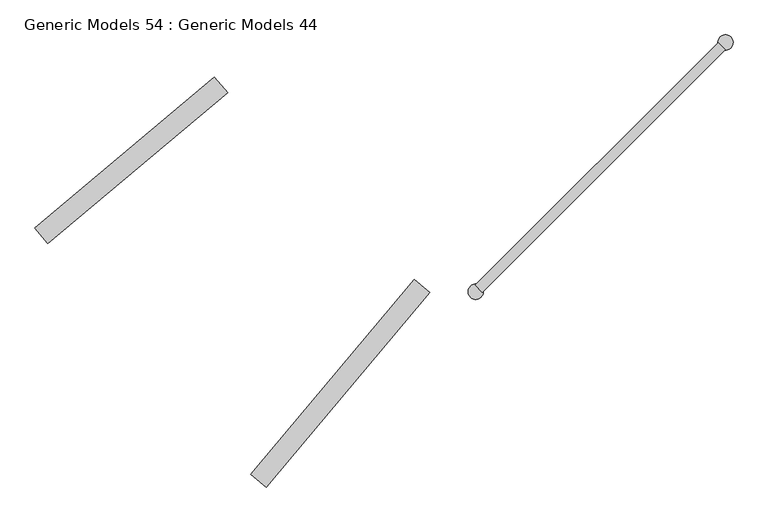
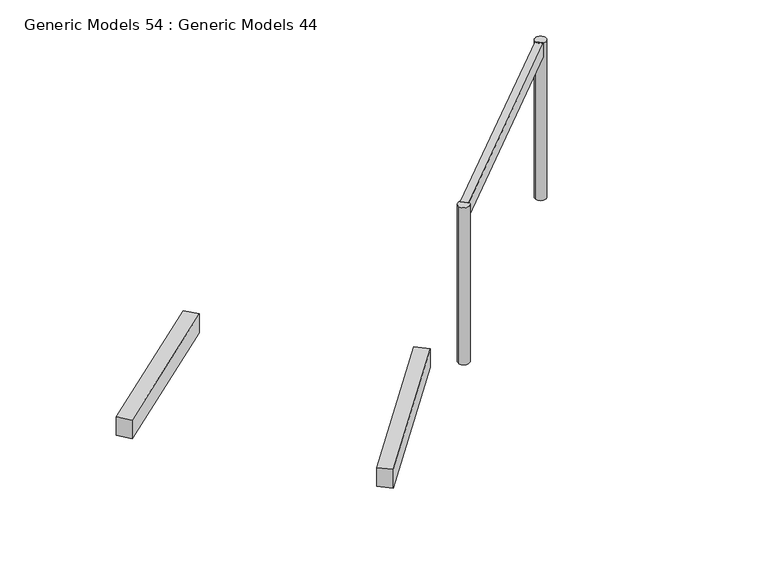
"""IFC4 building model written with IfcOpenShell, lengths in millimetres: proxy geometry, Generic Models 54 : Generic Models 44."""

import ifcopenshell
import ifcopenshell.guid

model = None  # the IFC model being written
_history = None  # IfcOwnerHistory: only IFC2X3 demands one
_inside = {}  # id of a spatial element -> (the spatial element, [elements in it])
_under = {}  # id of a project, library or spatial element -> (it, [spatial elements below it])
_declared = {}  # id of a project -> (the project, [libraries it declares])
_typed = {}  # id of a type object -> (the type object, [elements of that type])
_made_of = {}  # id of a material, layer set ... -> (it, [elements and type objects made of it])


def new_model(schema):
    """Start an empty IFC model of exactly this schema.

    Asked for "IFC4X3", IfcOpenShell would pick the latest addendum, in which some entities
    have other attributes; the version numbers below select the first issue.
    IFC2X3 requires an IfcOwnerHistory on every rooted entity: one is made here for all.
    """
    global model, _history
    if schema == "IFC4X3":
        model = ifcopenshell.file(schema_version=(4, 3, 0, 0))
    else:
        model = ifcopenshell.file(schema=schema)
    _inside.clear()
    _under.clear()
    _declared.clear()
    _typed.clear()
    _made_of.clear()
    _history = None
    if model.schema == "IFC2X3":
        org = make("IfcOrganization", Name="unknown")
        user = make(
            "IfcPersonAndOrganization",
            ThePerson=make("IfcPerson", FamilyName="unknown"),
            TheOrganization=org,
        )
        app = make(
            "IfcApplication",
            ApplicationDeveloper=org,
            Version="unknown",
            ApplicationFullName="unknown",
            ApplicationIdentifier="unknown",
        )
        _history = make(
            "IfcOwnerHistory",
            OwningUser=user,
            OwningApplication=app,
            ChangeAction="ADDED",
            CreationDate=0,
        )
    return model


def make(cls, **values):
    """One entity of the class cls with the attributes given. An attribute that is None is left unset."""
    return model.create_entity(
        cls, **{name: value for name, value in values.items() if value is not None}
    )


def rooted(cls, **values):
    """An entity with a GlobalId (a new one), such as an element, a storey or a relation."""
    return make(cls, GlobalId=ifcopenshell.guid.new(), OwnerHistory=_history, **values)


def si_unit(unit_type, name, prefix=None):
    """IfcSIUnit, for example si_unit("LENGTHUNIT", "METRE", prefix="MILLI")."""
    return make("IfcSIUnit", UnitType=unit_type, Prefix=prefix, Name=name)


def assignment(units):
    """IfcUnitAssignment: the units of a project."""
    return None if units is None else make("IfcUnitAssignment", Units=units)


def point(xyz):
    """IfcCartesianPoint."""
    return None if xyz is None else make("IfcCartesianPoint", Coordinates=xyz)


def direction(xyz):
    """IfcDirection."""
    return None if xyz is None else make("IfcDirection", DirectionRatios=xyz)


def frame(location, z_axis=None, x_axis=None):
    """IfcAxis2Placement3D, a coordinate frame: its origin and axes. An axis left out is left unset."""
    return make(
        "IfcAxis2Placement3D",
        Location=point(location),
        Axis=direction(z_axis),
        RefDirection=direction(x_axis),
    )


def frame_2d(location, x_axis=None):
    """IfcAxis2Placement2D, a coordinate frame in the plane: its origin and x axis."""
    return make(
        "IfcAxis2Placement2D", Location=point(location), RefDirection=direction(x_axis)
    )


def origin():
    """The frame at (0, 0, 0) with its axes left unset."""
    return frame((0.0, 0.0, 0.0))


def place(relative_to, where):
    """IfcLocalPlacement: puts the frame where relative to a parent placement (None: the world)."""
    return make(
        "IfcLocalPlacement", PlacementRelTo=relative_to, RelativePlacement=where
    )


def context(
    kind, dimensions, precision=None, world=None, true_north=None, identifier=None
):
    """IfcGeometricRepresentationContext, for example the 3D "Model" context."""
    return make(
        "IfcGeometricRepresentationContext",
        ContextIdentifier=identifier,
        ContextType=kind,
        CoordinateSpaceDimension=dimensions,
        Precision=precision,
        WorldCoordinateSystem=world,
        TrueNorth=true_north,
    )


def project(units=None, contexts=None):
    """IfcProject with its units and contexts."""
    return rooted(
        "IfcProject",
        Name="project",
        RepresentationContexts=contexts,
        UnitsInContext=assignment(units),
    )


def spatial(cls, under=None, at=None, **own):
    """A site, building, storey or space (cls), placed at a placement, below another one or the project."""
    s = rooted(cls, ObjectPlacement=at, **own)
    if under is not None:
        _under.setdefault(under.id(), (under, []))[1].append(s)
    return s


def polyline(points):
    """IfcPolyline through the points."""
    return make("IfcPolyline", Points=[point(p) for p in points])


def circle_curve(where, radius):
    """IfcCircle in the frame where."""
    return make("IfcCircle", Position=where, Radius=radius)


def trimmed(basis, trim1, trim2, sense, master):
    """IfcTrimmedCurve: the piece of a basis curve between two trims."""
    return make(
        "IfcTrimmedCurve",
        BasisCurve=basis,
        Trim1=trim1,
        Trim2=trim2,
        SenseAgreement=sense,
        MasterRepresentation=master,
    )


def segment(curve, same_sense, transition):
    """IfcCompositeCurveSegment."""
    return make(
        "IfcCompositeCurveSegment",
        Transition=transition,
        SameSense=same_sense,
        ParentCurve=curve,
    )


def composite_curve(segments, self_intersect=None):
    """IfcCompositeCurve: segments joined end to end."""
    return make("IfcCompositeCurve", Segments=segments, SelfIntersect=self_intersect)


def outline(outer, holes=None, kind="AREA"):
    """IfcArbitraryClosedProfileDef: a profile drawn as a closed curve; with holes, ...WithVoids."""
    if holes is None:
        return make("IfcArbitraryClosedProfileDef", ProfileType=kind, OuterCurve=outer)
    return make(
        "IfcArbitraryProfileDefWithVoids",
        ProfileType=kind,
        OuterCurve=outer,
        InnerCurves=holes,
    )


def extrude(swept, where, along, depth):
    """IfcExtrudedAreaSolid: the profile swept, set in the frame where, extruded along a direction by depth."""
    return make(
        "IfcExtrudedAreaSolid",
        SweptArea=swept,
        Position=where,
        ExtrudedDirection=direction(along),
        Depth=depth,
    )


def shape(context_of_items, identifier, shape_type, items):
    """IfcShapeRepresentation: the items that make up one representation, for example the "Body"."""
    return make(
        "IfcShapeRepresentation",
        ContextOfItems=context_of_items,
        RepresentationIdentifier=identifier,
        RepresentationType=shape_type,
        Items=items,
    )


def source(mapping_origin, context_of_items, identifier, shape_type, items):
    """IfcRepresentationMap: a shape defined once, which mapped items show again and again."""
    return make(
        "IfcRepresentationMap",
        MappingOrigin=mapping_origin,
        MappedRepresentation=shape(context_of_items, identifier, shape_type, items),
    )


def transform(
    local_origin,
    x_axis=None,
    y_axis=None,
    z_axis=None,
    scale=None,
    scale2=None,
    scale3=None,
    uniform=True,
):
    """IfcCartesianTransformationOperator3D, or its non-uniform kind. x_axis, y_axis, z_axis: its Axis1, 2, 3."""
    if uniform:
        return make(
            "IfcCartesianTransformationOperator3D",
            Axis1=direction(x_axis),
            Axis2=direction(y_axis),
            LocalOrigin=point(local_origin),
            Scale=scale,
            Axis3=direction(z_axis),
        )
    return make(
        "IfcCartesianTransformationOperator3DnonUniform",
        Axis1=direction(x_axis),
        Axis2=direction(y_axis),
        LocalOrigin=point(local_origin),
        Scale=scale,
        Axis3=direction(z_axis),
        Scale2=scale2,
        Scale3=scale3,
    )


def mapped(mapping_source, mapping_target):
    """IfcMappedItem: shows the shape of a source again, moved by a transform."""
    return make(
        "IfcMappedItem", MappingSource=mapping_source, MappingTarget=mapping_target
    )


def made_of(thing, what):
    """Note that an element or type object is made of a material, layer set ...; save() writes the relation."""
    if what is not None:
        _made_of.setdefault(what.id(), (what, []))[1].append(thing)
    return thing


def element(
    cls,
    number,
    at=None,
    inside=None,
    cuts=None,
    type_object=None,
    material=None,
    context=None,
    identifier="Body",
    shape_type=None,
    held_by="IfcProductDefinitionShape",
    body=None,
    shapes=None,
    **own,
):
    """One element of the class cls, such as IfcWall. Its Tag is "e" and its number.

    at: its placement. inside: the storey or other place that contains it. cuts: it is an
    opening in that element (IfcRelVoidsElement). A single representation is given by context,
    identifier, shape_type and body (its items); several are given by shapes. held_by: the class
    of the entity that holds the representations. save() writes the other relations.
    """
    e = rooted(cls, Tag="e%d" % number, ObjectPlacement=at, **own)
    if body is not None:
        shapes = [shape(context, identifier, shape_type, body)]
    if shapes is not None:
        e.Representation = make(held_by, Representations=shapes)
    if inside is not None:
        _inside.setdefault(inside.id(), (inside, []))[1].append(e)
    if cuts is not None:
        rooted(
            "IfcRelVoidsElement", RelatingBuildingElement=cuts, RelatedOpeningElement=e
        )
    if type_object is not None:
        _typed.setdefault(type_object.id(), (type_object, []))[1].append(e)
    return made_of(e, material)


def aggregate(whole, parts):
    """IfcRelAggregates: a whole, such as a stair, and the parts it consists of."""
    return rooted("IfcRelAggregates", RelatingObject=whole, RelatedObjects=parts)


def save(model, path):
    """Write the relations noted so far, then the file.

    IfcRelAggregates (storeys below a building ...), IfcRelContainedInSpatialStructure (elements
    in a storey), IfcRelDefinesByType, IfcRelAssociatesMaterial and IfcRelDeclares: one each for
    every whole, place, type object, material and project.
    """
    for whole, parts in _under.values():
        aggregate(whole, parts)
    for where, things in _inside.values():
        rooted(
            "IfcRelContainedInSpatialStructure",
            RelatedElements=things,
            RelatingStructure=where,
        )
    for kind, things in _typed.values():
        rooted("IfcRelDefinesByType", RelatedObjects=things, RelatingType=kind)
    for what, things in _made_of.values():
        rooted("IfcRelAssociatesMaterial", RelatedObjects=things, RelatingMaterial=what)
    for by, libraries in _declared.values():
        rooted("IfcRelDeclares", RelatingContext=by, RelatedDefinitions=libraries)
    model.write(path)


def generic_models_54_generic_models_44_10a6506e(model_context):
    return source(origin(), model_context, "Body", "SweptSolid", [
        extrude(outline(polyline([(-80068.8538823, -35737.0994253), (-80222.0627709, -35608.5419033), (-78611.0354184, -33688.5942681), (-78457.8265297, -33817.1517901), (-80068.8538823, -35737.0994253)])), frame((0.0, 0.0, 42770.0), z_axis=(0.0, 0.0, 1.0), x_axis=(1.0, 0.0, 0.0)), (0.0, 0.0, 1.0), 268.5053554),
        extrude(outline(polyline([(-82217.8807239, -33333.9533005), (-82346.4382458, -33180.7444118), (-80578.0705714, -31696.9077484), (-80449.5130494, -31850.116637), (-82217.8807239, -33333.9533005)])), frame((0.0, 0.0, 42770.0), z_axis=(0.0, 0.0, 1.0), x_axis=(1.0, 0.0, 0.0)), (0.0, 0.0, 1.0), 268.5053554),
        extrude(outline(polyline([(-77940.0442045, -33817.7796088), (-78010.7548827, -33747.0689307), (-75618.0398452, -31354.3538932), (-75547.329167, -31425.0645713), (-77940.0442045, -33817.7796088)])), frame((0.0, 0.0, 44746.1646464), z_axis=(0.0, 0.0, 1.0), x_axis=(1.0, 0.0, 0.0)), (0.0, 0.0, 1.0), 195.4634247),
        extrude(outline(composite_curve([segment(trimmed(circle_curve(frame_2d((-78005.111406, -33810.9678051)), 75.0), [point((-78080.111406, -33810.9678051))], [point((-77930.111406, -33810.9678051))], False, "CARTESIAN"), True, "CONTINUOUS"), segment(trimmed(circle_curve(frame_2d((-78005.111406, -33810.9678051)), 75.0), [point((-77930.111406, -33810.9678051))], [point((-78080.111406, -33810.9678051))], False, "CARTESIAN"), True, "CONTINUOUS")], self_intersect=False)), frame((0.0, 0.0, 42695.9057084), z_axis=(0.0, 0.0, 1.0), x_axis=(1.0, 0.0, 0.0)), (0.0, 0.0, 1.0), 2245.7223627),
        extrude(outline(composite_curve([segment(trimmed(circle_curve(frame_2d((-75544.9226767, -31353.5552475)), 75.0), [point((-75619.9226767, -31353.5552475))], [point((-75469.9226767, -31353.5552475))], False, "CARTESIAN"), True, "CONTINUOUS"), segment(trimmed(circle_curve(frame_2d((-75544.9226767, -31353.5552475)), 75.0), [point((-75469.9226767, -31353.5552475))], [point((-75619.9226767, -31353.5552475))], False, "CARTESIAN"), True, "CONTINUOUS")], self_intersect=False)), frame((0.0, 0.0, 42695.9057084), z_axis=(0.0, 0.0, 1.0), x_axis=(1.0, 0.0, 0.0)), (0.0, 0.0, 1.0), 2245.7223627),
    ])


if __name__ == "__main__":
    model = new_model("IFC4")
    model_context = context("Model", 3, world=origin())
    ifc_project = project(units=[si_unit("LENGTHUNIT", "METRE", prefix="MILLI")], contexts=[model_context])
    site = spatial("IfcSite", under=ifc_project)
    building = spatial("IfcBuilding", under=site)
    placement = place(None, origin())
    generic_models_54_generic_models_44_shape = generic_models_54_generic_models_44_10a6506e(model_context)
    element("IfcBuildingElementProxy", 1, Name="Generic Models 54 : Generic Models 44", ObjectType="Generic Models 54 : Generic Models 44", at=placement, inside=building, context=model_context, shape_type="MappedRepresentation", body=[
        mapped(generic_models_54_generic_models_44_shape, transform((0.0, 0.0, 0.0), x_axis=(1.0, 0.0, 0.0), y_axis=(0.0, 1.0, 0.0), z_axis=(0.0, 0.0, 1.0))),
    ])
    save(model, "model.ifc")
